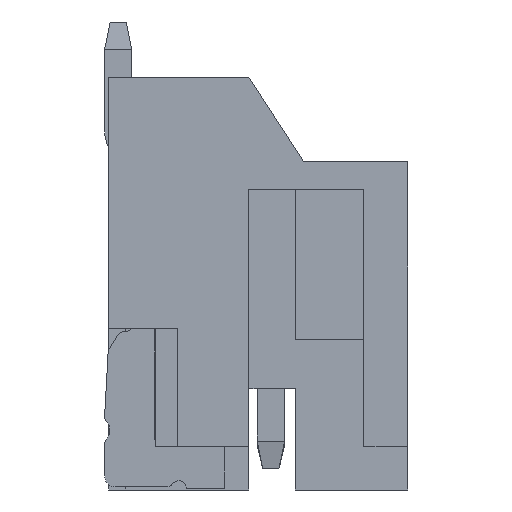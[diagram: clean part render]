
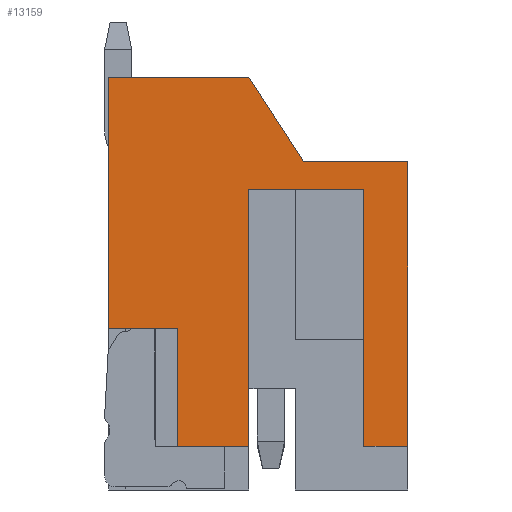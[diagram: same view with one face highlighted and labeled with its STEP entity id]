
A CAD part, left-side view. The second image highlights one B-rep face of the part: STEP entity #13159.
In plain terms, the highlighted planar face has unit normal (-1, 0, 0).
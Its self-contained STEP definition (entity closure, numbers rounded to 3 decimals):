
#288 = VECTOR ( 'NONE', #14792, 1000. ) ;
#381 = LINE ( 'NONE', #9505, #20625 ) ;
#628 = EDGE_LOOP ( 'NONE', ( #1460, #18378, #18663, #4109, #7514, #14555, #16426, #18430, #12168, #10935, #20328, #8560 ) ) ;
#656 = CARTESIAN_POINT ( 'NONE',  ( -171.129, 122.163, 1.55 ) ) ;
#833 = DIRECTION ( 'NONE',  ( 0., -1., 0. ) ) ;
#1071 = VECTOR ( 'NONE', #15554, 1000. ) ;
#1460 = ORIENTED_EDGE ( 'NONE', *, *, #3670, .T. ) ;
#1605 = CARTESIAN_POINT ( 'NONE',  ( -171.129, 118.603, 0. ) ) ;
#1833 = EDGE_CURVE ( 'NONE', #3846, #17992, #2339, .T. ) ;
#2327 = CARTESIAN_POINT ( 'NONE',  ( -171.129, 119.603, 1.55 ) ) ;
#2339 = LINE ( 'NONE', #14706, #8307 ) ;
#2381 = DIRECTION ( 'NONE',  ( 0., 1., 0. ) ) ;
#2458 = CARTESIAN_POINT ( 'NONE',  ( -171.129, 116.703, -5.2 ) ) ;
#2479 = VECTOR ( 'NONE', #2381, 1000. ) ;
#2581 = CARTESIAN_POINT ( 'NONE',  ( -171.129, 116.703, 0. ) ) ;
#3670 = EDGE_CURVE ( 'NONE', #3846, #11114, #18234, .T. ) ;
#3846 = VERTEX_POINT ( 'NONE', #13482 ) ;
#4002 = VERTEX_POINT ( 'NONE', #6985 ) ;
#4109 = ORIENTED_EDGE ( 'NONE', *, *, #7610, .F. ) ;
#4113 = LINE ( 'NONE', #11170, #2479 ) ;
#4877 = EDGE_CURVE ( 'NONE', #4002, #16105, #8270, .T. ) ;
#6330 = LINE ( 'NONE', #13284, #288 ) ;
#6466 = EDGE_CURVE ( 'NONE', #16105, #11114, #381, .T. ) ;
#6744 = CARTESIAN_POINT ( 'NONE',  ( -171.129, 116.703, 0. ) ) ;
#6898 = LINE ( 'NONE', #21023, #9421 ) ;
#6985 = CARTESIAN_POINT ( 'NONE',  ( -171.129, 120.903, -5.2 ) ) ;
#7285 = LINE ( 'NONE', #14351, #1071 ) ;
#7514 = ORIENTED_EDGE ( 'NONE', *, *, #21239, .F. ) ;
#7610 = EDGE_CURVE ( 'NONE', #16929, #4002, #22020, .T. ) ;
#8270 = LINE ( 'NONE', #20880, #15818 ) ;
#8307 = VECTOR ( 'NONE', #833, 1000. ) ;
#8439 = CARTESIAN_POINT ( 'NONE',  ( -171.129, 120.903, -3.04 ) ) ;
#8560 = ORIENTED_EDGE ( 'NONE', *, *, #1833, .F. ) ;
#9421 = VECTOR ( 'NONE', #15811, 1000. ) ;
#9505 = CARTESIAN_POINT ( 'NONE',  ( -171.129, 120.903, -3.04 ) ) ;
#9613 = EDGE_CURVE ( 'NONE', #20895, #15264, #6898, .T. ) ;
#10046 = EDGE_CURVE ( 'NONE', #11207, #20895, #10159, .T. ) ;
#10159 = LINE ( 'NONE', #18317, #20881 ) ;
#10935 = ORIENTED_EDGE ( 'NONE', *, *, #13562, .T. ) ;
#11114 = VERTEX_POINT ( 'NONE', #22485 ) ;
#11170 = CARTESIAN_POINT ( 'NONE',  ( -171.129, 117.503, -0.5 ) ) ;
#11207 = VERTEX_POINT ( 'NONE', #2458 ) ;
#11718 = DIRECTION ( 'NONE',  ( 0., 1., 0. ) ) ;
#12168 = ORIENTED_EDGE ( 'NONE', *, *, #17462, .F. ) ;
#12268 = VECTOR ( 'NONE', #20012, 1000. ) ;
#12840 = LINE ( 'NONE', #14334, #12268 ) ;
#12987 = CARTESIAN_POINT ( 'NONE',  ( -171.129, 119.603, -5.2 ) ) ;
#13159 = ADVANCED_FACE ( 'NONE', ( #16576 ), #19930, .F. ) ;
#13284 = CARTESIAN_POINT ( 'NONE',  ( -171.129, 119.603, -0.5 ) ) ;
#13482 = CARTESIAN_POINT ( 'NONE',  ( -171.129, 122.163, 1.55 ) ) ;
#13562 = EDGE_CURVE ( 'NONE', #18535, #18311, #12840, .T. ) ;
#14334 = CARTESIAN_POINT ( 'NONE',  ( -171.129, 116.703, 0. ) ) ;
#14351 = CARTESIAN_POINT ( 'NONE',  ( -171.129, 119.603, 1.55 ) ) ;
#14555 = ORIENTED_EDGE ( 'NONE', *, *, #17416, .F. ) ;
#14575 = VERTEX_POINT ( 'NONE', #18779 ) ;
#14641 = DIRECTION ( 'NONE',  ( 0., 0., -1. ) ) ;
#14706 = CARTESIAN_POINT ( 'NONE',  ( -171.129, 122.163, 1.55 ) ) ;
#14720 = DIRECTION ( 'NONE',  ( 1., 0., 0. ) ) ;
#14792 = DIRECTION ( 'NONE',  ( 0., 0., -1. ) ) ;
#15264 = VERTEX_POINT ( 'NONE', #22291 ) ;
#15265 = CARTESIAN_POINT ( 'NONE',  ( -171.129, 117.503, -5.2 ) ) ;
#15554 = DIRECTION ( 'NONE',  ( 0., -0.542, -0.84 ) ) ;
#15811 = DIRECTION ( 'NONE',  ( 0., 0., 1. ) ) ;
#15818 = VECTOR ( 'NONE', #17074, 1000. ) ;
#16105 = VERTEX_POINT ( 'NONE', #8439 ) ;
#16426 = ORIENTED_EDGE ( 'NONE', *, *, #9613, .F. ) ;
#16526 = VECTOR ( 'NONE', #20644, 1000. ) ;
#16576 = FACE_OUTER_BOUND ( 'NONE', #628, .T. ) ;
#16923 = CARTESIAN_POINT ( 'NONE',  ( -171.129, 119.603, -5.2 ) ) ;
#16929 = VERTEX_POINT ( 'NONE', #12987 ) ;
#16997 = VECTOR ( 'NONE', #11718, 1000. ) ;
#17074 = DIRECTION ( 'NONE',  ( 0., 0., 1. ) ) ;
#17389 = CARTESIAN_POINT ( 'NONE',  ( -171.129, 116.703, 0. ) ) ;
#17416 = EDGE_CURVE ( 'NONE', #15264, #14575, #4113, .T. ) ;
#17462 = EDGE_CURVE ( 'NONE', #18535, #11207, #18799, .T. ) ;
#17992 = VERTEX_POINT ( 'NONE', #2327 ) ;
#18074 = VECTOR ( 'NONE', #14641, 1000. ) ;
#18234 = LINE ( 'NONE', #656, #18074 ) ;
#18311 = VERTEX_POINT ( 'NONE', #1605 ) ;
#18317 = CARTESIAN_POINT ( 'NONE',  ( -171.129, 116.703, -5.2 ) ) ;
#18378 = ORIENTED_EDGE ( 'NONE', *, *, #6466, .F. ) ;
#18430 = ORIENTED_EDGE ( 'NONE', *, *, #10046, .F. ) ;
#18535 = VERTEX_POINT ( 'NONE', #6744 ) ;
#18663 = ORIENTED_EDGE ( 'NONE', *, *, #4877, .F. ) ;
#18779 = CARTESIAN_POINT ( 'NONE',  ( -171.129, 119.603, -0.5 ) ) ;
#18799 = LINE ( 'NONE', #17389, #16526 ) ;
#19804 = DIRECTION ( 'NONE',  ( 0., 1., 0. ) ) ;
#19930 = PLANE ( 'NONE',  #22248 ) ;
#19968 = EDGE_CURVE ( 'NONE', #17992, #18311, #7285, .T. ) ;
#20012 = DIRECTION ( 'NONE',  ( 0., 1., 0. ) ) ;
#20328 = ORIENTED_EDGE ( 'NONE', *, *, #19968, .F. ) ;
#20625 = VECTOR ( 'NONE', #19804, 1000. ) ;
#20644 = DIRECTION ( 'NONE',  ( 0., 0., -1. ) ) ;
#20880 = CARTESIAN_POINT ( 'NONE',  ( -171.129, 120.903, -5.2 ) ) ;
#20881 = VECTOR ( 'NONE', #21906, 1000. ) ;
#20895 = VERTEX_POINT ( 'NONE', #15265 ) ;
#21023 = CARTESIAN_POINT ( 'NONE',  ( -171.129, 117.503, -5.2 ) ) ;
#21239 = EDGE_CURVE ( 'NONE', #14575, #16929, #6330, .T. ) ;
#21664 = DIRECTION ( 'NONE',  ( 0., 1., 0. ) ) ;
#21906 = DIRECTION ( 'NONE',  ( 0., 1., 0. ) ) ;
#22020 = LINE ( 'NONE', #16923, #16997 ) ;
#22248 = AXIS2_PLACEMENT_3D ( 'NONE', #2581, #14720, #21664 ) ;
#22291 = CARTESIAN_POINT ( 'NONE',  ( -171.129, 117.503, -0.5 ) ) ;
#22485 = CARTESIAN_POINT ( 'NONE',  ( -171.129, 122.163, -3.04 ) ) ;
